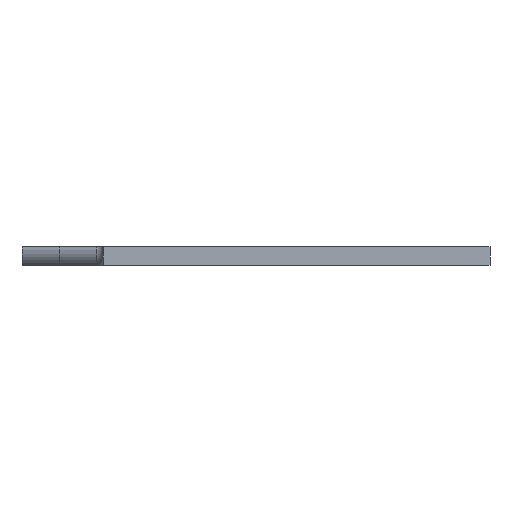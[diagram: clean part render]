
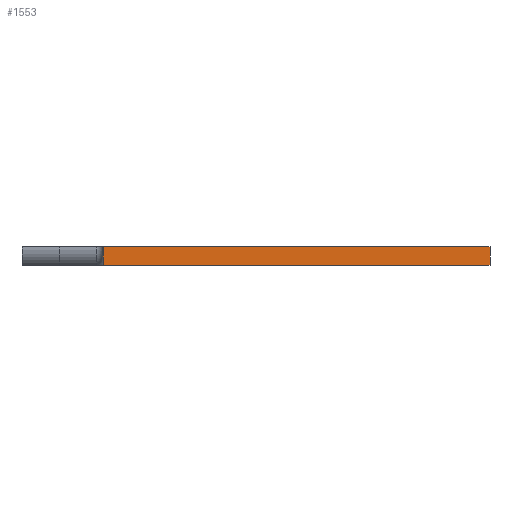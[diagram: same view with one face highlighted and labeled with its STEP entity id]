
A CAD part, front view. The second image highlights one B-rep face of the part: STEP entity #1553.
In plain terms, the highlighted planar face has unit normal (0, -1, 0).
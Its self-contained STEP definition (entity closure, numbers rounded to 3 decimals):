
#32 = PLANE('',#33);
#33 = AXIS2_PLACEMENT_3D('',#34,#35,#36);
#34 = CARTESIAN_POINT('',(53.033,53.033,0.));
#35 = DIRECTION('',(0.,0.,1.));
#36 = DIRECTION('',(1.,0.,-0.));
#638 = VERTEX_POINT('',#639);
#639 = CARTESIAN_POINT('',(26.,0.,0.));
#652 = PLANE('',#653);
#653 = AXIS2_PLACEMENT_3D('',#654,#655,#656);
#654 = CARTESIAN_POINT('',(26.,75.,51.));
#655 = DIRECTION('',(-1.,0.,0.));
#656 = DIRECTION('',(0.,0.,-1.));
#663 = EDGE_CURVE('',#638,#664,#666,.T.);
#664 = VERTEX_POINT('',#665);
#665 = CARTESIAN_POINT('',(150.,0.,0.));
#666 = SURFACE_CURVE('',#667,(#671,#678),.PCURVE_S1.);
#667 = LINE('',#668,#669);
#668 = CARTESIAN_POINT('',(0.,0.,0.));
#669 = VECTOR('',#670,1.);
#670 = DIRECTION('',(1.,0.,0.));
#671 = PCURVE('',#32,#672);
#672 = DEFINITIONAL_REPRESENTATION('',(#673),#677);
#673 = LINE('',#674,#675);
#674 = CARTESIAN_POINT('',(-53.033,-53.033));
#675 = VECTOR('',#676,1.);
#676 = DIRECTION('',(1.,0.));
#677 = ( GEOMETRIC_REPRESENTATION_CONTEXT(2) 
PARAMETRIC_REPRESENTATION_CONTEXT() REPRESENTATION_CONTEXT('2D SPACE',''
  ) );
#678 = PCURVE('',#679,#684);
#679 = PLANE('',#680);
#680 = AXIS2_PLACEMENT_3D('',#681,#682,#683);
#681 = CARTESIAN_POINT('',(0.,0.,0.));
#682 = DIRECTION('',(0.,1.,0.));
#683 = DIRECTION('',(1.,0.,0.));
#684 = DEFINITIONAL_REPRESENTATION('',(#685),#689);
#685 = LINE('',#686,#687);
#686 = CARTESIAN_POINT('',(0.,0.));
#687 = VECTOR('',#688,1.);
#688 = DIRECTION('',(1.,0.));
#689 = ( GEOMETRIC_REPRESENTATION_CONTEXT(2) 
PARAMETRIC_REPRESENTATION_CONTEXT() REPRESENTATION_CONTEXT('2D SPACE',''
  ) );
#707 = PLANE('',#708);
#708 = AXIS2_PLACEMENT_3D('',#709,#710,#711);
#709 = CARTESIAN_POINT('',(150.,0.,0.));
#710 = DIRECTION('',(-0.707,-0.707,0.));
#711 = DIRECTION('',(-0.707,0.707,0.));
#926 = PLANE('',#927);
#927 = AXIS2_PLACEMENT_3D('',#928,#929,#930);
#928 = CARTESIAN_POINT('',(53.033,53.033,6.));
#929 = DIRECTION('',(0.,0.,1.));
#930 = DIRECTION('',(1.,0.,-0.));
#1509 = EDGE_CURVE('',#664,#1510,#1512,.T.);
#1510 = VERTEX_POINT('',#1511);
#1511 = CARTESIAN_POINT('',(150.,0.,6.));
#1512 = SURFACE_CURVE('',#1513,(#1517,#1524),.PCURVE_S1.);
#1513 = LINE('',#1514,#1515);
#1514 = CARTESIAN_POINT('',(150.,0.,0.));
#1515 = VECTOR('',#1516,1.);
#1516 = DIRECTION('',(0.,0.,1.));
#1517 = PCURVE('',#707,#1518);
#1518 = DEFINITIONAL_REPRESENTATION('',(#1519),#1523);
#1519 = LINE('',#1520,#1521);
#1520 = CARTESIAN_POINT('',(0.,0.));
#1521 = VECTOR('',#1522,1.);
#1522 = DIRECTION('',(0.,-1.));
#1523 = ( GEOMETRIC_REPRESENTATION_CONTEXT(2) 
PARAMETRIC_REPRESENTATION_CONTEXT() REPRESENTATION_CONTEXT('2D SPACE',''
  ) );
#1524 = PCURVE('',#679,#1525);
#1525 = DEFINITIONAL_REPRESENTATION('',(#1526),#1530);
#1526 = LINE('',#1527,#1528);
#1527 = CARTESIAN_POINT('',(150.,0.));
#1528 = VECTOR('',#1529,1.);
#1529 = DIRECTION('',(0.,-1.));
#1530 = ( GEOMETRIC_REPRESENTATION_CONTEXT(2) 
PARAMETRIC_REPRESENTATION_CONTEXT() REPRESENTATION_CONTEXT('2D SPACE',''
  ) );
#1553 = ADVANCED_FACE('',(#1554),#679,.F.);
#1554 = FACE_BOUND('',#1555,.F.);
#1555 = EDGE_LOOP('',(#1556,#1557,#1578,#1599));
#1556 = ORIENTED_EDGE('',*,*,#663,.F.);
#1557 = ORIENTED_EDGE('',*,*,#1558,.T.);
#1558 = EDGE_CURVE('',#638,#1559,#1561,.T.);
#1559 = VERTEX_POINT('',#1560);
#1560 = CARTESIAN_POINT('',(26.,0.,6.));
#1561 = SURFACE_CURVE('',#1562,(#1566,#1572),.PCURVE_S1.);
#1562 = LINE('',#1563,#1564);
#1563 = CARTESIAN_POINT('',(26.,0.,25.5));
#1564 = VECTOR('',#1565,1.);
#1565 = DIRECTION('',(0.,-0.,1.));
#1566 = PCURVE('',#679,#1567);
#1567 = DEFINITIONAL_REPRESENTATION('',(#1568),#1571);
#1568 = B_SPLINE_CURVE_WITH_KNOTS('',1,(#1569,#1570),.UNSPECIFIED.,.F.,
  .F.,(2,2),(-25.5,-19.5),.PIECEWISE_BEZIER_KNOTS.);
#1569 = CARTESIAN_POINT('',(26.,0.));
#1570 = CARTESIAN_POINT('',(26.,-6.));
#1571 = ( GEOMETRIC_REPRESENTATION_CONTEXT(2) 
PARAMETRIC_REPRESENTATION_CONTEXT() REPRESENTATION_CONTEXT('2D SPACE',''
  ) );
#1572 = PCURVE('',#652,#1573);
#1573 = DEFINITIONAL_REPRESENTATION('',(#1574),#1577);
#1574 = B_SPLINE_CURVE_WITH_KNOTS('',1,(#1575,#1576),.UNSPECIFIED.,.F.,
  .F.,(2,2),(-25.5,-19.5),.PIECEWISE_BEZIER_KNOTS.);
#1575 = CARTESIAN_POINT('',(51.,75.));
#1576 = CARTESIAN_POINT('',(45.,75.));
#1577 = ( GEOMETRIC_REPRESENTATION_CONTEXT(2) 
PARAMETRIC_REPRESENTATION_CONTEXT() REPRESENTATION_CONTEXT('2D SPACE',''
  ) );
#1578 = ORIENTED_EDGE('',*,*,#1579,.T.);
#1579 = EDGE_CURVE('',#1559,#1510,#1580,.T.);
#1580 = SURFACE_CURVE('',#1581,(#1585,#1592),.PCURVE_S1.);
#1581 = LINE('',#1582,#1583);
#1582 = CARTESIAN_POINT('',(0.,0.,6.));
#1583 = VECTOR('',#1584,1.);
#1584 = DIRECTION('',(1.,0.,0.));
#1585 = PCURVE('',#679,#1586);
#1586 = DEFINITIONAL_REPRESENTATION('',(#1587),#1591);
#1587 = LINE('',#1588,#1589);
#1588 = CARTESIAN_POINT('',(0.,-6.));
#1589 = VECTOR('',#1590,1.);
#1590 = DIRECTION('',(1.,0.));
#1591 = ( GEOMETRIC_REPRESENTATION_CONTEXT(2) 
PARAMETRIC_REPRESENTATION_CONTEXT() REPRESENTATION_CONTEXT('2D SPACE',''
  ) );
#1592 = PCURVE('',#926,#1593);
#1593 = DEFINITIONAL_REPRESENTATION('',(#1594),#1598);
#1594 = LINE('',#1595,#1596);
#1595 = CARTESIAN_POINT('',(-53.033,-53.033));
#1596 = VECTOR('',#1597,1.);
#1597 = DIRECTION('',(1.,0.));
#1598 = ( GEOMETRIC_REPRESENTATION_CONTEXT(2) 
PARAMETRIC_REPRESENTATION_CONTEXT() REPRESENTATION_CONTEXT('2D SPACE',''
  ) );
#1599 = ORIENTED_EDGE('',*,*,#1509,.F.);
